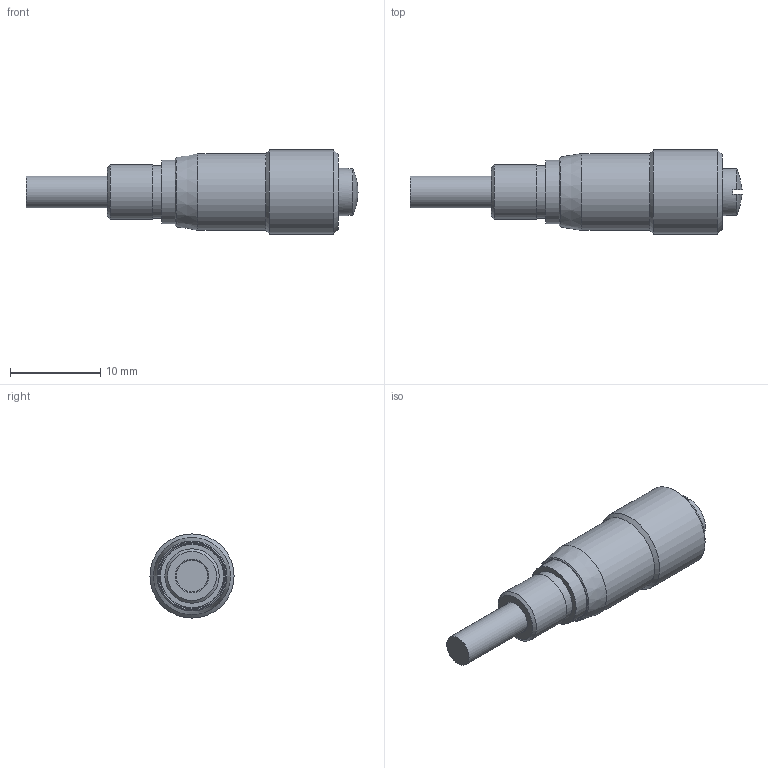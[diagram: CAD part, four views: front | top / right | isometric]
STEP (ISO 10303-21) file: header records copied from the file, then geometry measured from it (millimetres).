
FILE_DESCRIPTION((''),'2;1');
FILE_NAME('T:\Public\7_3次元データ\1図面ﾃﾞｰﾀ\2_OpticalHard\01_国内製品\5_Actuators\SHT1-6.5\SHT1-6.5.stp','2008-11-20T16:42:11',('okegawa'),(''),'Autodesk Inventor 2008','Autodesk Inventor 2008','');
FILE_SCHEMA(('AUTOMOTIVE_DESIGN { 1 0 10303 214 1 1 1 1 }'));
Length unit declared in the file: millimetre
Products named in the file (3): SHT1-6.5; SHT1-6.5-02-S01; SHT1-6.5-C1-S01
Assembly tree (2 placements, depth 2):
  SHT1-6.5
    SHT1-6.5-02-S01
    SHT1-6.5-C1-S01
Bounding box: 36.69 x 9.3 x 9.3 mm (x, y, z)
Volume: 1298.8 mm3; surface area: 2267.4 mm2
Topology: 2 solids, 3 shells, 52 faces, 93 edges, 57 vertices
Faces by surface type: plane 17, cylinder 15, cone 14, bspline 4, sphere 2
Full cylindrical faces by diameter (mm): 2.2 x1, 3.3 x1, 3.5 x2, 4.5 x2, 5 x1, 5.2 x1, 5.8 x1, 6 x1, 6.4 x1, 7 x1, 7.2 x1, 8.5 x1, 9.3 x1
Entity records: 1227 total; most frequent: CARTESIAN_POINT 256, DIRECTION 212, ORIENTED_EDGE 114, AXIS2_PLACEMENT_3D 103, EDGE_LOOP 96, EDGE_CURVE 57, VERTEX_POINT 53, FACE_OUTER_BOUND 52
